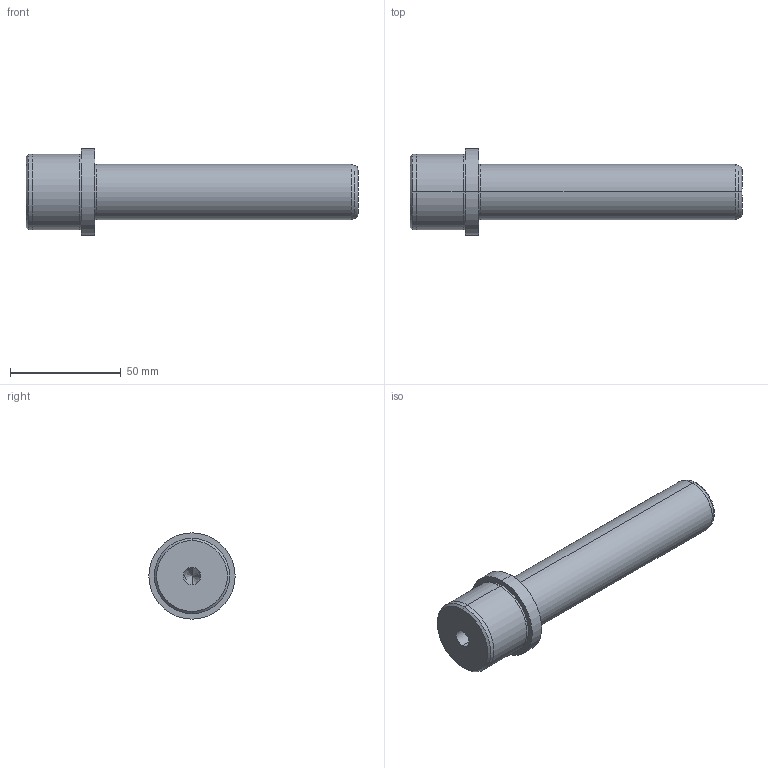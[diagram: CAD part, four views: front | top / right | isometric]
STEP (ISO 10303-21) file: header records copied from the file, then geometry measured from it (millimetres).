
FILE_DESCRIPTION( ( 'STEP AP203' ), '1' );
FILE_NAME( 'D:/Delta 3 D/D05/D05 - 25x125x25.step', '2002-12-31T22:33:58', ( ' ' ), ( ' ' ), 'XStep 1.0', ' ', ' ' );
FILE_SCHEMA( ( 'CONFIG_CONTROL_DESIGN' ) );
Length unit declared in the file: metre
Products named in the file (1): 1
Bounding box: 150 x 39 x 39 mm (x, y, z)
Volume: 87530.8 mm3; surface area: 15264.7 mm2
Topology: 1 solids, 1 shells, 29 faces, 57 edges, 35 vertices
Faces by surface type: revolution 20, bspline 9
Entity records: 855 total; most frequent: CARTESIAN_POINT 218, ORIENTED_EDGE 112, DIRECTION 110, EDGE_CURVE 56, AXIS2_PLACEMENT_3D 35, EDGE_LOOP 35, VERTEX_POINT 35, CIRCLE 34
